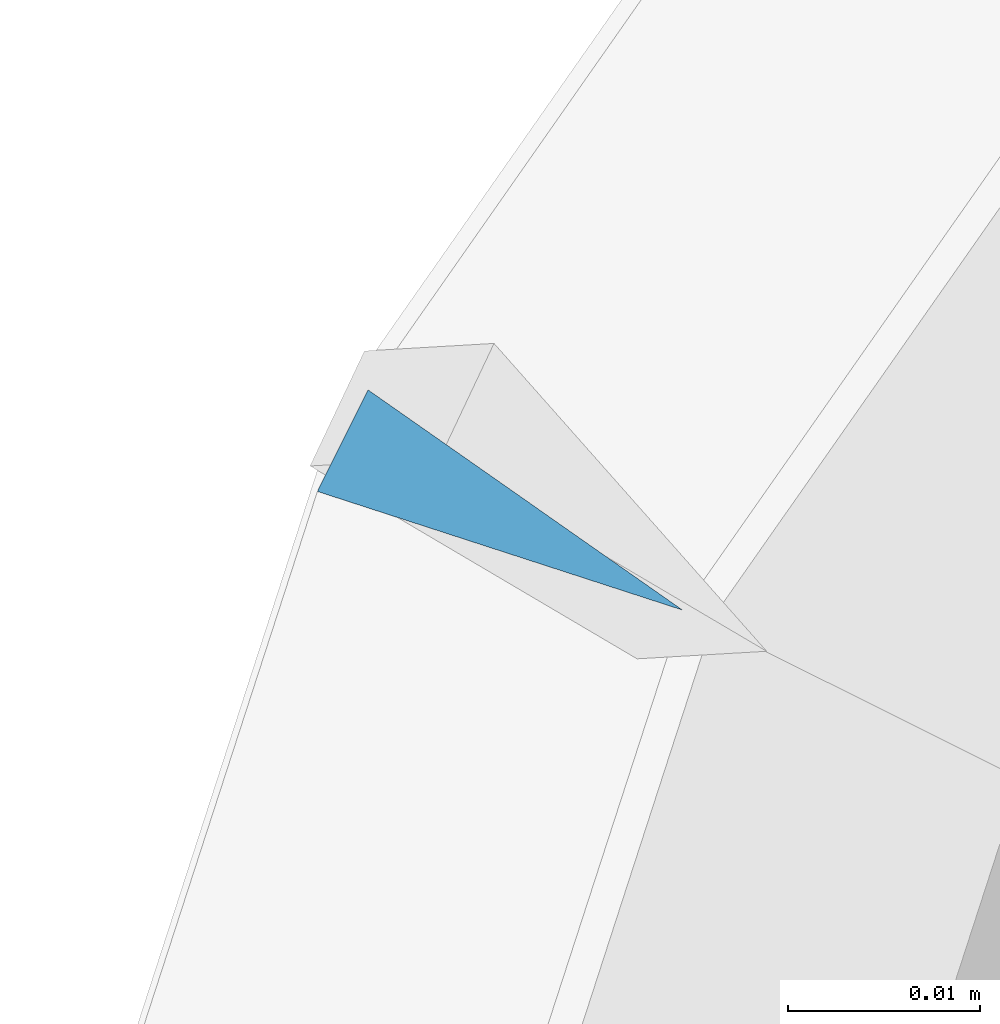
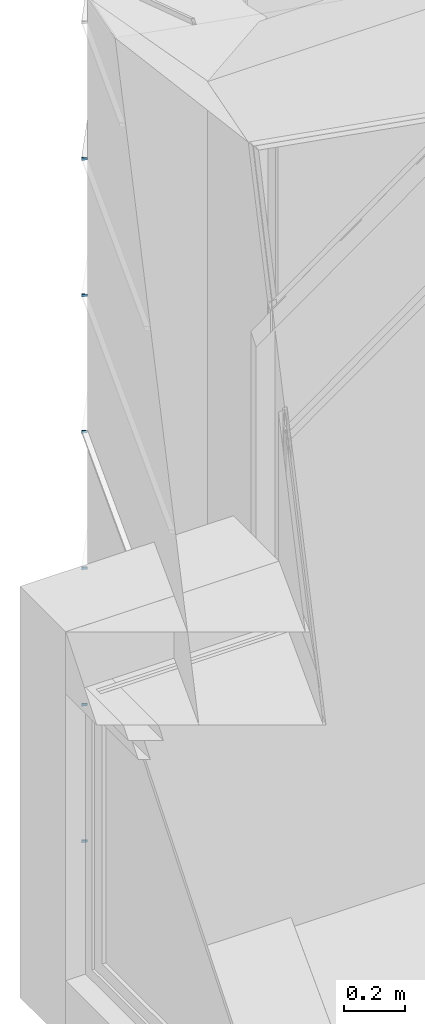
# One storey, part 335 of 583: 6 slabs.
"""IFC2X3 building model written with IfcOpenShell, lengths in metres."""

import ifcopenshell
import ifcopenshell.guid

model = None  # the IFC model being written
_history = None  # IfcOwnerHistory: only IFC2X3 demands one
_inside = {}  # id of a spatial element -> (the spatial element, [elements in it])
_under = {}  # id of a project, library or spatial element -> (it, [spatial elements below it])
_declared = {}  # id of a project -> (the project, [libraries it declares])
_typed = {}  # id of a type object -> (the type object, [elements of that type])
_made_of = {}  # id of a material, layer set ... -> (it, [elements and type objects made of it])


def new_model(schema):
    """Start an empty IFC model of exactly this schema.

    Asked for "IFC4X3", IfcOpenShell would pick the latest addendum, in which some entities
    have other attributes; the version numbers below select the first issue.
    IFC2X3 requires an IfcOwnerHistory on every rooted entity: one is made here for all.
    """
    global model, _history
    if schema == "IFC4X3":
        model = ifcopenshell.file(schema_version=(4, 3, 0, 0))
    else:
        model = ifcopenshell.file(schema=schema)
    _inside.clear()
    _under.clear()
    _declared.clear()
    _typed.clear()
    _made_of.clear()
    _history = None
    if model.schema == "IFC2X3":
        org = make("IfcOrganization", Name="unknown")
        user = make(
            "IfcPersonAndOrganization",
            ThePerson=make("IfcPerson", FamilyName="unknown"),
            TheOrganization=org,
        )
        app = make(
            "IfcApplication",
            ApplicationDeveloper=org,
            Version="unknown",
            ApplicationFullName="unknown",
            ApplicationIdentifier="unknown",
        )
        _history = make(
            "IfcOwnerHistory",
            OwningUser=user,
            OwningApplication=app,
            ChangeAction="ADDED",
            CreationDate=0,
        )
    return model


def make(cls, **values):
    """One entity of the class cls with the attributes given. An attribute that is None is left unset."""
    return model.create_entity(
        cls, **{name: value for name, value in values.items() if value is not None}
    )


def entity(cls, *values):
    """Any entity or typed value of the class cls, its attributes in the order of the schema. None: left unset."""
    e = model.create_entity(cls)
    for i, value in enumerate(values):
        if value is not None:
            e[i] = value
    return e


def rooted(cls, **values):
    """An entity with a GlobalId (a new one), such as an element, a storey or a relation."""
    return make(cls, GlobalId=ifcopenshell.guid.new(), OwnerHistory=_history, **values)


def si_unit(unit_type, name, prefix=None):
    """IfcSIUnit, for example si_unit("LENGTHUNIT", "METRE", prefix="MILLI")."""
    return make("IfcSIUnit", UnitType=unit_type, Prefix=prefix, Name=name)


def converted_unit(unit_type, name, factor, base, dimensions=None, offset=None):
    """IfcConversionBasedUnit, such as the inch: factor (a typed value) times the base unit."""
    return make(
        "IfcConversionBasedUnit"
        if offset is None
        else "IfcConversionBasedUnitWithOffset",
        ConversionOffset=offset,
        Dimensions=None
        if dimensions is None
        else entity("IfcDimensionalExponents", *dimensions),
        UnitType=unit_type,
        Name=name,
        ConversionFactor=make(
            "IfcMeasureWithUnit", ValueComponent=factor, UnitComponent=base
        ),
    )


def derived_unit(unit_type, elements):
    """IfcDerivedUnit: a product of units, each with its exponent."""
    return make(
        "IfcDerivedUnit",
        Elements=[
            make("IfcDerivedUnitElement", Unit=unit, Exponent=power)
            for unit, power in elements
        ],
        UnitType=unit_type,
    )


def money_unit(currency):
    """IfcMonetaryUnit."""
    return make("IfcMonetaryUnit", Currency=currency)


def assignment(units):
    """IfcUnitAssignment: the units of a project."""
    return None if units is None else make("IfcUnitAssignment", Units=units)


def point(xyz):
    """IfcCartesianPoint."""
    return None if xyz is None else make("IfcCartesianPoint", Coordinates=xyz)


def direction(xyz):
    """IfcDirection."""
    return None if xyz is None else make("IfcDirection", DirectionRatios=xyz)


def frame(location, z_axis=None, x_axis=None):
    """IfcAxis2Placement3D, a coordinate frame: its origin and axes. An axis left out is left unset."""
    return make(
        "IfcAxis2Placement3D",
        Location=point(location),
        Axis=direction(z_axis),
        RefDirection=direction(x_axis),
    )


def origin_with_axes():
    """The frame at (0, 0, 0) with the z axis (0, 0, 1) and the x axis (1, 0, 0) written out."""
    return frame((0.0, 0.0, 0.0), z_axis=(0.0, 0.0, 1.0), x_axis=(1.0, 0.0, 0.0))


def place(relative_to, where):
    """IfcLocalPlacement: puts the frame where relative to a parent placement (None: the world)."""
    return make(
        "IfcLocalPlacement", PlacementRelTo=relative_to, RelativePlacement=where
    )


def context(
    kind, dimensions, precision=None, world=None, true_north=None, identifier=None
):
    """IfcGeometricRepresentationContext, for example the 3D "Model" context."""
    return make(
        "IfcGeometricRepresentationContext",
        ContextIdentifier=identifier,
        ContextType=kind,
        CoordinateSpaceDimension=dimensions,
        Precision=precision,
        WorldCoordinateSystem=world,
        TrueNorth=true_north,
    )


def subcontext(parent, identifier, kind, view, scale=None):
    """IfcGeometricRepresentationSubContext, for example "Body" below "Model"."""
    return make(
        "IfcGeometricRepresentationSubContext",
        ContextIdentifier=identifier,
        ContextType=kind,
        ParentContext=parent,
        TargetScale=scale,
        TargetView=view,
    )


def project(units=None, contexts=None):
    """IfcProject with its units and contexts."""
    return rooted(
        "IfcProject",
        Name="project",
        RepresentationContexts=contexts,
        UnitsInContext=assignment(units),
    )


def spatial(cls, under=None, at=None, **own):
    """A site, building, storey or space (cls), placed at a placement, below another one or the project."""
    s = rooted(cls, ObjectPlacement=at, **own)
    if under is not None:
        _under.setdefault(under.id(), (under, []))[1].append(s)
    return s


def faces_of(points, faces, orient=None, outer=None):
    """IfcFace entities. A face is a list of loops; a loop is a list of indices into points, from 0.

    orient and outer hold one flag for each loop. By default every Orientation is true, the
    first loop of a face is its IfcFaceOuterBound and the others are IfcFaceBound.
    """
    made = []
    for i, loops in enumerate(faces):
        bounds = []
        for j, loop in enumerate(loops):
            is_outer = j == 0 if outer is None else outer[i][j]
            bounds.append(
                make(
                    "IfcFaceOuterBound" if is_outer else "IfcFaceBound",
                    Bound=make("IfcPolyLoop", Polygon=[points[k] for k in loop]),
                    Orientation=True if orient is None else orient[i][j],
                )
            )
        made.append(make("IfcFace", Bounds=bounds))
    return made


def faceted_brep(points, faces, orient=None, outer=None, voids=None):
    """IfcFacetedBrep: a solid bounded by flat faces; with voids (closed shells), ...WithVoids."""
    shared = [point(p) for p in points]
    hull = make("IfcClosedShell", CfsFaces=faces_of(shared, faces, orient, outer))
    if voids is None:
        return make("IfcFacetedBrep", Outer=hull)
    return make(
        "IfcFacetedBrepWithVoids",
        Outer=hull,
        Voids=[
            make(cls, CfsFaces=faces_of(shared, fs, o, b)) for cls, fs, o, b in voids
        ],
    )


def shape(context_of_items, identifier, shape_type, items):
    """IfcShapeRepresentation: the items that make up one representation, for example the "Body"."""
    return make(
        "IfcShapeRepresentation",
        ContextOfItems=context_of_items,
        RepresentationIdentifier=identifier,
        RepresentationType=shape_type,
        Items=items,
    )


def material(Name=None, Category=None):
    """IfcMaterial."""
    return make("IfcMaterial", Name=Name, Category=Category)


def made_of(thing, what):
    """Note that an element or type object is made of a material, layer set ...; save() writes the relation."""
    if what is not None:
        _made_of.setdefault(what.id(), (what, []))[1].append(thing)
    return thing


def type_object(cls, material=None, **own):
    """A type object (cls), such as IfcWallType, which elements share."""
    return made_of(rooted(cls, **own), material)


def element(
    cls,
    number,
    at=None,
    inside=None,
    cuts=None,
    type_object=None,
    material=None,
    context=None,
    identifier="Body",
    shape_type=None,
    held_by="IfcProductDefinitionShape",
    body=None,
    shapes=None,
    **own,
):
    """One element of the class cls, such as IfcWall. Its Tag is "e" and its number.

    at: its placement. inside: the storey or other place that contains it. cuts: it is an
    opening in that element (IfcRelVoidsElement). A single representation is given by context,
    identifier, shape_type and body (its items); several are given by shapes. held_by: the class
    of the entity that holds the representations. save() writes the other relations.
    """
    e = rooted(cls, Tag="e%d" % number, ObjectPlacement=at, **own)
    if body is not None:
        shapes = [shape(context, identifier, shape_type, body)]
    if shapes is not None:
        e.Representation = make(held_by, Representations=shapes)
    if inside is not None:
        _inside.setdefault(inside.id(), (inside, []))[1].append(e)
    if cuts is not None:
        rooted(
            "IfcRelVoidsElement", RelatingBuildingElement=cuts, RelatedOpeningElement=e
        )
    if type_object is not None:
        _typed.setdefault(type_object.id(), (type_object, []))[1].append(e)
    return made_of(e, material)


def aggregate(whole, parts):
    """IfcRelAggregates: a whole, such as a stair, and the parts it consists of."""
    return rooted("IfcRelAggregates", RelatingObject=whole, RelatedObjects=parts)


def save(model, path):
    """Write the relations noted so far, then the file.

    IfcRelAggregates (storeys below a building ...), IfcRelContainedInSpatialStructure (elements
    in a storey), IfcRelDefinesByType, IfcRelAssociatesMaterial and IfcRelDeclares: one each for
    every whole, place, type object, material and project.
    """
    for whole, parts in _under.values():
        aggregate(whole, parts)
    for where, things in _inside.values():
        rooted(
            "IfcRelContainedInSpatialStructure",
            RelatedElements=things,
            RelatingStructure=where,
        )
    for kind, things in _typed.values():
        rooted("IfcRelDefinesByType", RelatedObjects=things, RelatingType=kind)
    for what, things in _made_of.values():
        rooted("IfcRelAssociatesMaterial", RelatedObjects=things, RelatingMaterial=what)
    for by, libraries in _declared.values():
        rooted("IfcRelDeclares", RelatingContext=by, RelatedDefinitions=libraries)
    model.write(path)


model = new_model("IFC2X3")

# Units and contexts
model_context = context("Model", 3, precision=1e-05, world=origin_with_axes(), true_north=direction((0.0, 1.0)))
body_context = subcontext(model_context, "Body", "Model", "MODEL_VIEW", scale=1.0)
ifc_project = project(units=[si_unit("LENGTHUNIT", "METRE"), si_unit("AREAUNIT", "SQUARE_METRE"), si_unit("VOLUMEUNIT", "CUBIC_METRE"), si_unit("ABSORBEDDOSEUNIT", "GRAY"), si_unit("AMOUNTOFSUBSTANCEUNIT", "MOLE"), si_unit("DOSEEQUIVALENTUNIT", "SIEVERT"), si_unit("ELECTRICCAPACITANCEUNIT", "FARAD"), si_unit("ELECTRICCHARGEUNIT", "COULOMB"), si_unit("ELECTRICCONDUCTANCEUNIT", "SIEMENS"), si_unit("ELECTRICCURRENTUNIT", "AMPERE"), si_unit("ELECTRICRESISTANCEUNIT", "OHM"), si_unit("ELECTRICVOLTAGEUNIT", "VOLT"), si_unit("ENERGYUNIT", "JOULE"), si_unit("FORCEUNIT", "NEWTON"), si_unit("FREQUENCYUNIT", "HERTZ"), si_unit("ILLUMINANCEUNIT", "LUX"), si_unit("INDUCTANCEUNIT", "HENRY"), si_unit("LUMINOUSFLUXUNIT", "LUMEN"), si_unit("LUMINOUSINTENSITYUNIT", "CANDELA"), si_unit("MAGNETICFLUXDENSITYUNIT", "TESLA"), si_unit("MAGNETICFLUXUNIT", "WEBER"), si_unit("MASSUNIT", "GRAM"), converted_unit("PLANEANGLEUNIT", "degree", entity("IfcReal", 0.0174532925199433), si_unit("PLANEANGLEUNIT", "RADIAN"), dimensions=[0, 0, 0, 0, 0, 0, 0]), si_unit("POWERUNIT", "WATT"), si_unit("PRESSUREUNIT", "PASCAL"), si_unit("RADIOACTIVITYUNIT", "BECQUEREL"), si_unit("SOLIDANGLEUNIT", "STERADIAN"), si_unit("THERMODYNAMICTEMPERATUREUNIT", "KELVIN"), si_unit("TIMEUNIT", "SECOND"), derived_unit("ACCELERATIONUNIT", [(si_unit("LENGTHUNIT", "METRE"), 1), (si_unit("TIMEUNIT", "SECOND"), -2)]), derived_unit("ANGULARVELOCITYUNIT", [(converted_unit("PLANEANGLEUNIT", "degree", entity("IfcReal", 0.0174532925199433), si_unit("PLANEANGLEUNIT", "RADIAN"), dimensions=[0, 0, 0, 0, 0, 0, 0]), 1), (si_unit("TIMEUNIT", "SECOND"), -1)]), derived_unit("CURVATUREUNIT", [(converted_unit("PLANEANGLEUNIT", "degree", entity("IfcReal", 0.0174532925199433), si_unit("PLANEANGLEUNIT", "RADIAN"), dimensions=[0, 0, 0, 0, 0, 0, 0]), 1), (si_unit("LENGTHUNIT", "METRE"), -1)]), derived_unit("DYNAMICVISCOSITYUNIT", [(si_unit("PRESSUREUNIT", "PASCAL"), 1), (si_unit("TIMEUNIT", "SECOND"), 1)]), derived_unit("HEATFLUXDENSITYUNIT", [(si_unit("POWERUNIT", "WATT"), 1), (si_unit("LENGTHUNIT", "METRE"), -2)]), derived_unit("HEATINGVALUEUNIT", [(si_unit("ENERGYUNIT", "JOULE"), 1), (si_unit("MASSUNIT", "GRAM"), -1)]), derived_unit("INTEGERCOUNTRATEUNIT", [(si_unit("TIMEUNIT", "SECOND"), -1)]), derived_unit("IONCONCENTRATIONUNIT", [(si_unit("MASSUNIT", "GRAM"), 1), (si_unit("VOLUMEUNIT", "CUBIC_METRE"), -1)]), derived_unit("ISOTHERMALMOISTURECAPACITYUNIT", [(si_unit("VOLUMEUNIT", "CUBIC_METRE"), 1), (si_unit("MASSUNIT", "GRAM"), -1)]), derived_unit("KINEMATICVISCOSITYUNIT", [(si_unit("AREAUNIT", "SQUARE_METRE"), 1), (si_unit("TIMEUNIT", "SECOND"), -1)]), derived_unit("LINEARFORCEUNIT", [(si_unit("FORCEUNIT", "NEWTON"), 1), (si_unit("LENGTHUNIT", "METRE"), -1)]), derived_unit("LINEARMOMENTUNIT", [(si_unit("FORCEUNIT", "NEWTON"), 1), (si_unit("LENGTHUNIT", "METRE"), -1)]), derived_unit("LINEARSTIFFNESSUNIT", [(si_unit("FORCEUNIT", "NEWTON"), 1), (si_unit("LENGTHUNIT", "METRE"), -1)]), derived_unit("LINEARVELOCITYUNIT", [(si_unit("LENGTHUNIT", "METRE"), 1), (si_unit("TIMEUNIT", "SECOND"), -1)]), derived_unit("LUMINOUSINTENSITYDISTRIBUTIONUNIT", [(si_unit("LUMINOUSINTENSITYUNIT", "CANDELA"), 1), (si_unit("LUMINOUSFLUXUNIT", "LUMEN"), -1)]), derived_unit("MASSDENSITYUNIT", [(si_unit("MASSUNIT", "GRAM"), 1), (si_unit("VOLUMEUNIT", "CUBIC_METRE"), -1)]), derived_unit("MASSFLOWRATEUNIT", [(si_unit("MASSUNIT", "GRAM"), 1), (si_unit("TIMEUNIT", "SECOND"), -1)]), derived_unit("MASSPERLENGTHUNIT", [(si_unit("MASSUNIT", "GRAM"), 1), (si_unit("LENGTHUNIT", "METRE"), -1)]), derived_unit("MODULUSOFELASTICITYUNIT", [(si_unit("FORCEUNIT", "NEWTON"), 1), (si_unit("AREAUNIT", "SQUARE_METRE"), -1)]), derived_unit("MODULUSOFLINEARSUBGRADEREACTIONUNIT", [(si_unit("FORCEUNIT", "NEWTON"), 1), (si_unit("LENGTHUNIT", "METRE"), -2)]), derived_unit("MODULUSOFROTATIONALSUBGRADEREACTIONUNIT", [(si_unit("FORCEUNIT", "NEWTON"), 1), (si_unit("LENGTHUNIT", "METRE"), 1)]), derived_unit("MODULUSOFSUBGRADEREACTIONUNIT", [(si_unit("FORCEUNIT", "NEWTON"), 1), (si_unit("VOLUMEUNIT", "CUBIC_METRE"), -1)]), derived_unit("MOISTUREDIFFUSIVITYUNIT", [(si_unit("VOLUMEUNIT", "CUBIC_METRE"), 1), (si_unit("TIMEUNIT", "SECOND"), -1)]), derived_unit("MOLECULARWEIGHTUNIT", [(si_unit("MASSUNIT", "GRAM"), 1), (si_unit("AMOUNTOFSUBSTANCEUNIT", "MOLE"), -1)]), derived_unit("PLANARFORCEUNIT", [(si_unit("FORCEUNIT", "NEWTON"), 1), (si_unit("LENGTHUNIT", "METRE"), -2)]), derived_unit("ROTATIONALFREQUENCYUNIT", [(si_unit("TIMEUNIT", "SECOND"), -1)]), derived_unit("ROTATIONALMASSUNIT", [(si_unit("MASSUNIT", "GRAM"), 1), (si_unit("LENGTHUNIT", "METRE"), 2)]), derived_unit("ROTATIONALSTIFFNESSUNIT", [(si_unit("FORCEUNIT", "NEWTON"), 1), (si_unit("LENGTHUNIT", "METRE"), 1), (converted_unit("PLANEANGLEUNIT", "degree", entity("IfcReal", 0.0174532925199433), si_unit("PLANEANGLEUNIT", "RADIAN"), dimensions=[0, 0, 0, 0, 0, 0, 0]), -1)]), derived_unit("SECTIONAREAINTEGRALUNIT", [(si_unit("LENGTHUNIT", "METRE"), 5)]), derived_unit("SECTIONMODULUSUNIT", [(si_unit("LENGTHUNIT", "METRE"), 3)]), derived_unit("SHEARMODULUSUNIT", [(si_unit("FORCEUNIT", "NEWTON"), 1), (si_unit("AREAUNIT", "SQUARE_METRE"), -1)]), derived_unit("SOUNDPOWERUNIT", [(si_unit("ENERGYUNIT", "JOULE"), 1), (si_unit("TIMEUNIT", "SECOND"), -1)]), derived_unit("SPECIFICHEATCAPACITYUNIT", [(si_unit("FORCEUNIT", "NEWTON"), 1), (si_unit("MASSUNIT", "GRAM"), -1), (si_unit("THERMODYNAMICTEMPERATUREUNIT", "KELVIN"), -1)]), derived_unit("TEMPERATUREGRADIENTUNIT", [(si_unit("THERMODYNAMICTEMPERATUREUNIT", "KELVIN"), 1), (si_unit("LENGTHUNIT", "METRE"), -1)]), derived_unit("THERMALADMITTANCEUNIT", [(si_unit("POWERUNIT", "WATT"), 1), (si_unit("AREAUNIT", "SQUARE_METRE"), -1), (si_unit("THERMODYNAMICTEMPERATUREUNIT", "KELVIN"), -1)]), derived_unit("THERMALCONDUCTANCEUNIT", [(si_unit("POWERUNIT", "WATT"), 1), (si_unit("LENGTHUNIT", "METRE"), -1), (si_unit("THERMODYNAMICTEMPERATUREUNIT", "KELVIN"), -1)]), derived_unit("THERMALEXPANSIONCOEFFICIENTUNIT", [(si_unit("THERMODYNAMICTEMPERATUREUNIT", "KELVIN"), -1)]), derived_unit("THERMALRESISTANCEUNIT", [(si_unit("AREAUNIT", "SQUARE_METRE"), 1), (si_unit("POWERUNIT", "WATT"), -1)]), derived_unit("THERMALTRANSMITTANCEUNIT", [(si_unit("POWERUNIT", "WATT"), 1), (si_unit("AREAUNIT", "SQUARE_METRE"), -1), (si_unit("THERMODYNAMICTEMPERATUREUNIT", "KELVIN"), -1)]), derived_unit("TORQUEUNIT", [(si_unit("FORCEUNIT", "NEWTON"), 1), (si_unit("LENGTHUNIT", "METRE"), 1)]), derived_unit("VAPORPERMEABILITYUNIT", [(si_unit("MASSUNIT", "GRAM"), 1), (si_unit("TIMEUNIT", "SECOND"), -1)]), derived_unit("VOLUMETRICFLOWRATEUNIT", [(si_unit("VOLUMEUNIT", "CUBIC_METRE"), 1), (si_unit("TIMEUNIT", "SECOND"), -1)]), derived_unit("WARPINGCONSTANTUNIT", [(si_unit("LENGTHUNIT", "METRE"), 6)]), derived_unit("WARPINGMOMENTUNIT", [(si_unit("FORCEUNIT", "NEWTON"), 1), (si_unit("LENGTHUNIT", "METRE"), 2)]), money_unit("GBP")], contexts=[model_context])

# Site, building, storey
site_placement = place(None, origin_with_axes())
site = spatial("IfcSite", under=ifc_project, at=site_placement, Name="Site", CompositionType="ELEMENT")
building_placement = place(site_placement, origin_with_axes())
building = spatial("IfcBuilding", under=site, at=building_placement, Name="Building01", CompositionType="ELEMENT")
storey_placement = place(building_placement, frame((0.0, 0.0, 20.78), z_axis=(0.0, 0.0, 1.0), x_axis=(1.0, 0.0, 0.0)))
storey = spatial("IfcBuildingStorey", under=building, at=storey_placement, Name="RL", CompositionType="ELEMENT", Elevation=20.78)

# Slabs
ifc_material = material(Name="A_BSUK_Roofs")
slab_type = type_object("IfcSlabType", Name="A-FloorsSlabs A_BSUK_Slabs", PredefinedType="FLOOR")
for number, where, z_axis, x_axis, name in (
    (1, (1.317877, 18.791933, 1.475024), (0.0, 1.0, 0.0), (0.0, 0.0, 1.0), "A-FloorsSlabs A_BSUK_Slabs"),
    (2, (1.317877, 18.791933, 2.022524), (0.0, 1.0, 0.0), (0.0, 0.0, 1.0), "A-FloorsSlabs A_BSUK_Slabs"),
    (3, (1.317877, 18.791933, 2.570024), (0.0, 1.0, 0.0), (0.0, 0.0, 1.0), "A-FloorsSlabs A_BSUK_Slabs"),
    (4, (1.317877, 18.791933, 3.117524), (0.0, 1.0, 0.0), (0.0, 0.0, 1.0), "A-FloorsSlabs A_BSUK_Slabs"),
    (5, (1.317877, 18.791933, 3.665024), (0.0, 1.0, 0.0), (0.0, 0.0, 1.0), "A-FloorsSlabs A_BSUK_Slabs"),
    (6, (1.317877, 18.791933, 4.212524), (0.0, 1.0, 0.0), (0.0, 0.0, 1.0), "A-FloorsSlabs A_BSUK_Slabs"),
):
    element("IfcSlab", number, at=place(storey_placement, frame(where, z_axis=z_axis, x_axis=x_axis)), inside=storey, type_object=slab_type, material=ifc_material, Name=name, ObjectType="A-FloorsSlabs A_BSUK_Slabs", context=body_context, shape_type="Brep", body=[
        faceted_brep([(0.0, -0.002638, -0.005291), (0.01, -0.002638, -0.005291), (0.01, 0.0, 0.0), (0.0, 0.0, 0.0), (0.0, 0.016383, -0.011472), (0.01, 0.016383, -0.011472)], [[[0, 1, 2, 3]], [[4, 5, 1, 0]], [[3, 2, 5, 4]], [[1, 5, 2]], [[3, 4, 0]]]),
    ])

save(model, "model.ifc")
